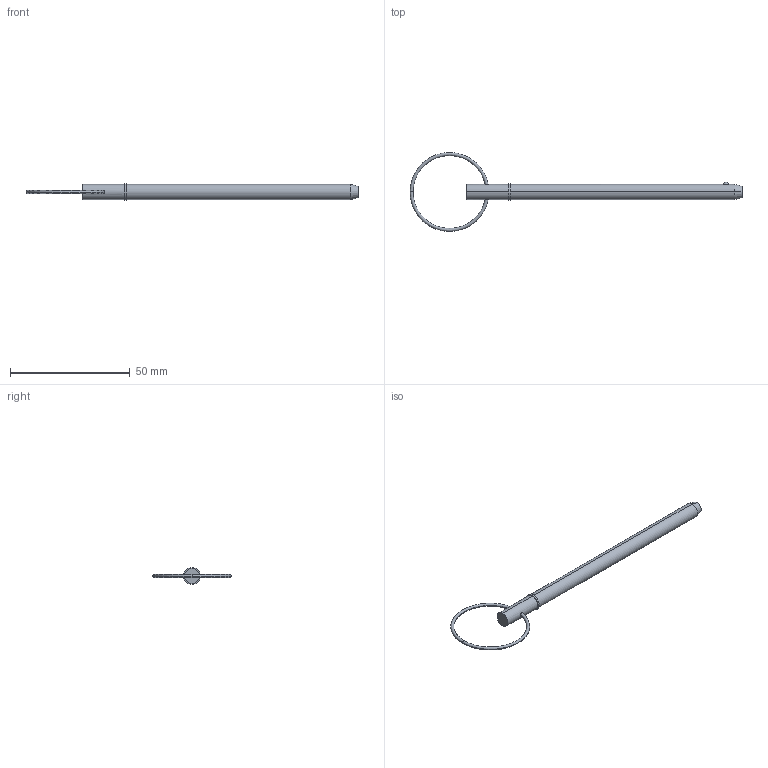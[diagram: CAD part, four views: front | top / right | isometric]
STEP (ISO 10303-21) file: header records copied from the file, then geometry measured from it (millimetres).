
FILE_DESCRIPTION (( 'STEP AP203' ), '1' );
FILE_NAME ('33016.W2535.step', '2024-11-07T11:02:57', ( '' ), ( '' ), 'SwSTEP 2.0', 'SolidWorks 2019', '' );
FILE_SCHEMA (( 'CONFIG_CONTROL_DESIGN' ));
Length unit declared in the file: millimetre
Products named in the file (3): 33016.W2535; Part1_33016.W2535; Part2_33016.W2535
Assembly tree (2 placements, depth 2):
  33016.W2535
    Part1_33016.W2535
    Part2_33016.W2535
Bounding box: 138.84 x 33.02 x 6.99 mm (x, y, z)
Volume: 3744.6 mm3; surface area: 2783.4 mm2
Topology: 2 solids, 2 shells, 22 faces, 43 edges, 26 vertices
Faces by surface type: torus 8, cylinder 6, plane 4, sphere 2, cone 2
Entity records: 971 total; most frequent: CARTESIAN_POINT 194, DIRECTION 120, ORIENTED_EDGE 86, AXIS2_PLACEMENT_3D 56, EDGE_CURVE 43, CIRCLE 29, EDGE_LOOP 27, VERTEX_POINT 26
